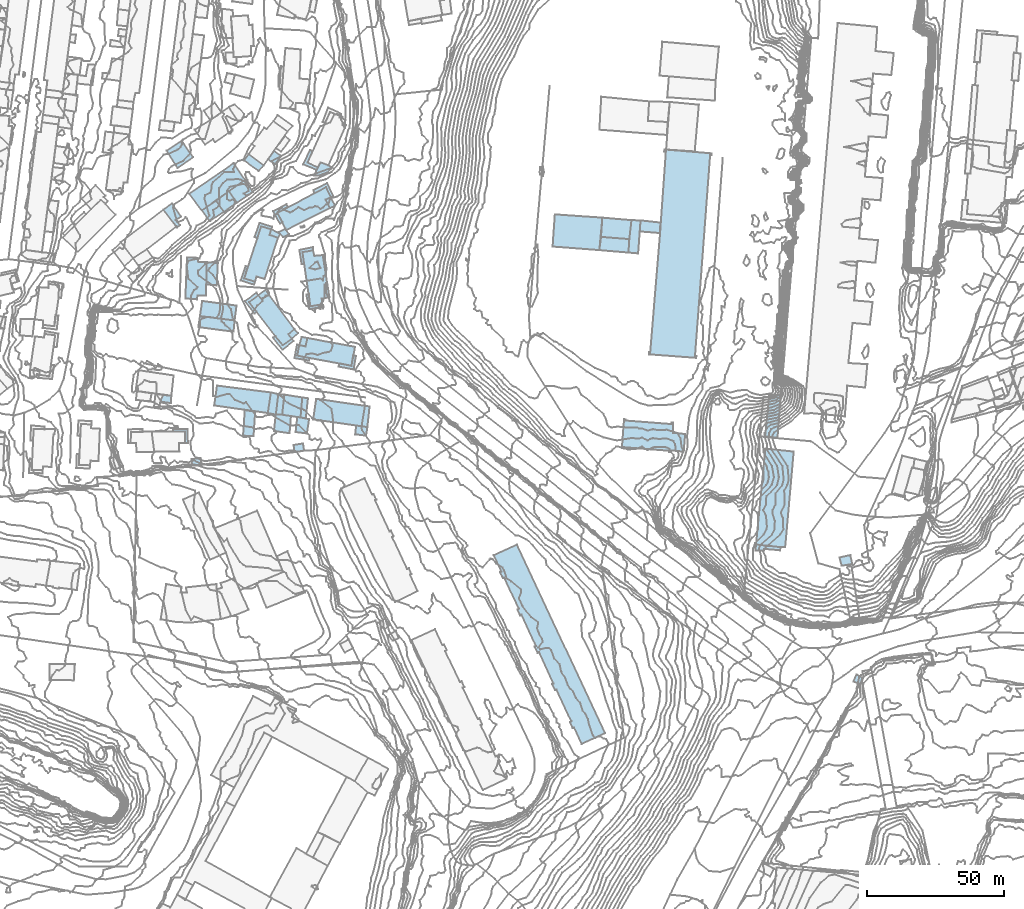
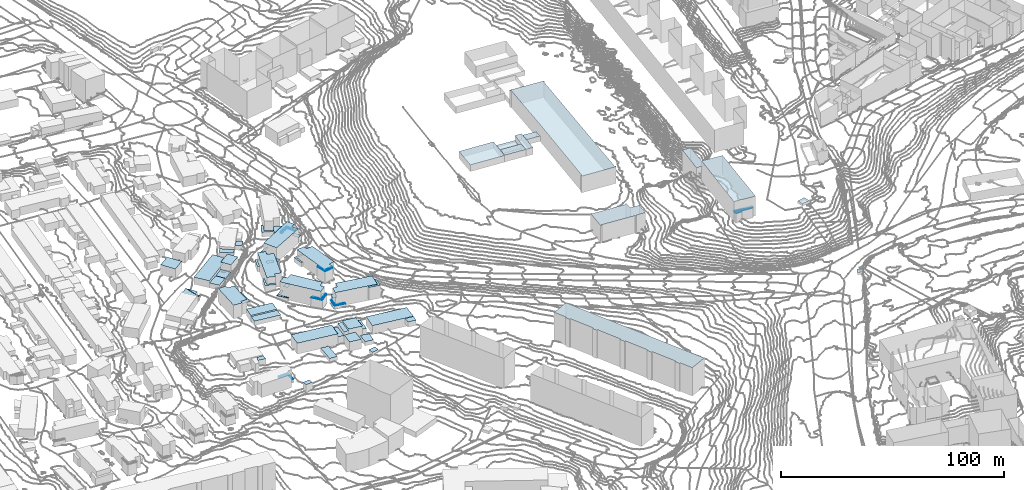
# Not in any storey, part 82 of 419: 62 roofs.
"""IFC2X3 model written with IfcOpenShell, lengths in metres."""

from ifc_helpers import new_model, si_unit, frame, origin_with_axes, place, context, subcontext, project, faceted_brep, element, save


model = new_model("IFC2X3")

# Units and contexts
model_context = context("Model", 3, precision=1e-05, world=origin_with_axes())
body_context = subcontext(model_context, "Body", "Model", "MODEL_VIEW")
ifc_project = project(units=[si_unit("AREAUNIT", "SQUARE_METRE"), si_unit("LENGTHUNIT", "METRE")], contexts=[model_context])

# Roofs
roof_1_placement = place(None, frame((585.6920204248, 669.3976909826, 49.8970001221), z_axis=(0.0, 0.0, 1.0), x_axis=(1.0, 0.0, 0.0)))
element("IfcRoof", 1, at=roof_1_placement, Name="Toiture 0", ShapeType="NOTDEFINED", context=body_context, shape_type="Brep", body=[
    faceted_brep([(12.8, -1.7000000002, 2.3029998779), (13.2000000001, 2.4000000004, 2.3029998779), (0.6, 4.0, 2.3029998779), (0.0, 0.0, 2.3029998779)], [[[0, 1, 2]], [[2, 3, 0]]]),
])
roof_2_placement = place(None, frame((591.4920204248, 640.8976909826, 49.4289993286), z_axis=(0.0, 0.0, 1.0), x_axis=(1.0, 0.0, 0.0)))
element("IfcRoof", 2, at=roof_2_placement, Name="Toiture 0", ShapeType="NOTDEFINED", context=body_context, shape_type="Brep", body=[
    faceted_brep([(19.5, -2.7999999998, 5.9710006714), (20.6, 4.7000000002, 5.9710006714), (1.0, 7.2000000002, 5.9710006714), (0.0, 0.0, 5.9710006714)], [[[0, 1, 2]], [[2, 3, 0]]]),
])
roof_3_placement = place(None, frame((613.8920204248, 637.4976909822, 50.0967005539), z_axis=(0.0, 0.0, 1.0), x_axis=(1.0, 0.0, 0.0)))
element("IfcRoof", 3, at=roof_3_placement, Name="Toiture 0", ShapeType="NOTDEFINED", context=body_context, shape_type="Brep", body=[
    faceted_brep([(2.2999999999, 0.0, 5.6032994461), (3.1, 7.3000000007, 5.6032994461), (0.8999999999, 7.5, 5.6032994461), (0.0, 0.0, 5.6032994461)], [[[0, 1, 2]], [[2, 3, 0]]]),
])
roof_4_placement = place(None, frame((614.4920204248, 710.9976909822, 51.7713991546), z_axis=(0.0, 0.0, 1.0), x_axis=(1.0, 0.0, 0.0)))
element("IfcRoof", 4, at=roof_4_placement, Name="Toiture 0", ShapeType="NOTDEFINED", context=body_context, shape_type="Brep", body=[
    faceted_brep([(3.2, -6.2999999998, 8.0286008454), (19.1, 1.8000000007, 8.0286008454), (17.5, 4.8000000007, 8.0286008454), (19.4, 5.7000000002, 8.0286008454), (17.7, 9.3000000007, 8.0286008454), (0.0, 0.0, 8.0286008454)], [[[0, 1, 2]], [[2, 3, 4]], [[4, 5, 0]], [[0, 2, 4]]]),
])
roof_5_placement = place(None, frame((739.7920204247, 625.3976909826, 67.8319976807), z_axis=(0.0, 0.0, 1.0), x_axis=(1.0, 0.0, 0.0)))
element("IfcRoof", 5, at=roof_5_placement, Name="Toiture 0", ShapeType="NOTDEFINED", context=body_context, shape_type="Brep", body=[
    faceted_brep([(18.6000000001, 8.4000000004, 9.5680023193), (18.6000000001, 9.2000000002, 9.5680023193), (18.1000000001, 9.2000000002, 9.5680023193), (1.4, 10.0, 9.5680023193), (1.4, 10.4000000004, 9.5680023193), (0.8, 10.5, 9.5680023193), (0.0, 0.0, 9.5680023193), (0.7000000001, -0.0999999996, 9.5680023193), (0.7000000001, 0.2999999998, 9.5680023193), (17.2000000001, -1.0, 9.5680023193), (17.2000000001, -1.5, 9.5680023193), (17.8, -1.5, 9.5680023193), (18.0, -0.9000000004, 9.5680023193), (22.5, -1.2999999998, 9.5680023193), (23.0, 5.0999999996, 9.5680023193), (18.6000000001, 5.5, 9.5680023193), (18.1000000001, 8.7000000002, 9.5680023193)], [[[0, 1, 2]], [[3, 4, 5]], [[6, 7, 8]], [[9, 10, 11]], [[12, 13, 14]], [[15, 0, 2]], [[3, 5, 6]], [[9, 11, 12]], [[12, 14, 15]], [[15, 2, 16]], [[16, 3, 6]], [[8, 9, 12]], [[12, 15, 16]], [[16, 6, 8]], [[8, 12, 16]]]),
])
roof_6_placement = place(None, frame((602.3920204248, 687.0976909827, 52.1847999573), z_axis=(0.0, 0.0, 1.0), x_axis=(1.0, 0.0, 0.0)))
element("IfcRoof", 6, at=roof_6_placement, Name="Toiture 0", ShapeType="NOTDEFINED", context=body_context, shape_type="Brep", body=[
    faceted_brep([(7.3999999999, -0.2000000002, 7.4152000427), (12.2999999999, 14.7999999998, 7.4152000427), (9.2, 15.7999999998, 7.4152000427), (9.7999999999, 17.8999999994, 7.4152000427), (6.1, 18.8999999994, 7.4152000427), (0.0, 0.0, 7.4152000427), (3.8999999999, -1.2000000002, 7.4152000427), (4.3999999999, 0.7000000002, 7.4152000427)], [[[0, 1, 2]], [[2, 3, 4]], [[4, 5, 6]], [[7, 0, 2]], [[4, 6, 7]], [[7, 2, 4]]]),
])
roof_7_placement = place(None, frame((574.1920204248, 733.5976909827, 42.8875996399), z_axis=(0.0, 0.0, 1.0), x_axis=(1.0, 0.0, 0.0)))
element("IfcRoof", 7, at=roof_7_placement, Name="Toiture 0", ShapeType="NOTDEFINED", context=body_context, shape_type="Brep", body=[
    faceted_brep([(5.5, 3.7000000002, 5.4124003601), (0.0, 0.0, 5.4124003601), (4.0, -6.2999999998, 5.4124003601), (9.6, -2.4000000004, 5.4124003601)], [[[0, 1, 2]], [[2, 3, 0]]]),
])
roof_8_placement = place(None, frame((571.8920204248, 642.2976909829, 48.9172991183), z_axis=(0.0, 0.0, 1.0), x_axis=(1.0, 0.0, 0.0)))
element("IfcRoof", 8, at=roof_8_placement, Name="Toiture 0", ShapeType="NOTDEFINED", context=body_context, shape_type="Brep", body=[
    faceted_brep([(3.7999999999, -0.6000000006, 3.0827008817), (4.0, 2.0999999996, 3.0827008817), (0.8999999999, 2.3999999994, 3.0827008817), (0.0, 0.0, 3.0827008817)], [[[0, 1, 2]], [[2, 3, 0]]]),
])
roof_9_placement = place(None, frame((742.1920204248, 696.4976909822, 71.3740007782), z_axis=(0.0, 0.0, 1.0), x_axis=(1.0, 0.0, 0.0)))
element("IfcRoof", 9, at=roof_9_placement, Name="Toiture 0", ShapeType="NOTDEFINED", context=body_context, shape_type="Brep", body=[
    faceted_brep([(1.1, 11.8000000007, 3.8259992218), (0.3, 4.9000000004, 3.8259992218), (0.0, 0.0, 3.8259992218), (3.5, -0.2999999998, 3.8259992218), (4.4, 11.7000000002, 3.8259992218)], [[[0, 1, 2]], [[2, 3, 4]], [[4, 0, 2]]]),
])
roof_10_placement = place(None, frame((583.1920204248, 621.3976909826, 44.3322001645), z_axis=(0.0, 0.0, 1.0), x_axis=(1.0, 0.0, 0.0)))
element("IfcRoof", 10, at=roof_10_placement, Name="Toiture 0", ShapeType="NOTDEFINED", context=body_context, shape_type="Brep", body=[
    faceted_brep([(0.3, -2.4000000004, 4.3677998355), (3.7000000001, -2.0999999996, 4.3677998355), (3.4, 0.4000000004, 4.3677998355), (0.0, 0.0, 4.3677998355)], [[[0, 1, 2]], [[2, 3, 0]]]),
])
roof_11_placement = place(None, frame((620.3920204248, 626.4976909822, 48.8734996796), z_axis=(0.0, 0.0, 1.0), x_axis=(1.0, 0.0, 0.0)))
element("IfcRoof", 11, at=roof_11_placement, Name="Toiture 0", ShapeType="NOTDEFINED", context=body_context, shape_type="Brep", body=[
    faceted_brep([(0.2999999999, -2.5999999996, 1.6265003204), (3.7999999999, -2.0, 1.6265003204), (3.3999999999, 0.6000000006, 1.6265003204), (0.0, 0.0, 1.6265003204)], [[[0, 1, 2]], [[2, 3, 0]]]),
])
roof_12_placement = place(None, frame((623.7920204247, 728.5976909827, 49.1729995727), z_axis=(0.0, 0.0, 1.0), x_axis=(1.0, 0.0, 0.0)))
element("IfcRoof", 12, at=roof_12_placement, Name="Toiture 0", ShapeType="NOTDEFINED", context=body_context, shape_type="Brep", body=[
    faceted_brep([(0.0, 0.0, 2.5270004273), (4.8, -2.0, 2.5270004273), (5.3, -1.1000000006, 2.5270004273), (1.6000000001, 0.5999999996, 2.5270004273), (3.4, 4.7999999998, 2.5270004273), (2.5, 5.2000000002, 2.5270004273)], [[[0, 1, 2]], [[3, 4, 5]], [[0, 2, 3]], [[3, 5, 0]]]),
])
roof_13_placement = place(None, frame((627.7920204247, 724.5976909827, 49.5610002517), z_axis=(0.0, 0.0, 1.0), x_axis=(1.0, 0.0, 0.0)))
element("IfcRoof", 13, at=roof_13_placement, Name="Toiture 0", ShapeType="NOTDEFINED", context=body_context, shape_type="Brep", body=[
    faceted_brep([(6.7000000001, 2.7999999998, 2.7389997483), (5.2000000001, 3.5999999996, 2.7389997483), (2.3, 4.7000000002, 2.7389997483), (0.0, 0.0, 2.7389997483), (1.9, 0.0, 2.7389997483), (4.7000000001, 1.0999999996, 2.7389997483)], [[[0, 1, 2]], [[2, 3, 4]], [[4, 5, 0]], [[0, 2, 4]]]),
])
roof_14_placement = place(None, frame((614.8920204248, 703.8976909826, 52.1322005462), z_axis=(0.0, 0.0, 1.0), x_axis=(1.0, 0.0, 0.0)))
element("IfcRoof", 14, at=roof_14_placement, Name="Toiture 0", ShapeType="NOTDEFINED", context=body_context, shape_type="Brep", body=[
    faceted_brep([(2.7999999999, 0.7999999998, 1.8677994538), (2.6, 1.4000000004, 1.8677994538), (0.0, 0.0, 1.8677994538), (1.7, -1.7000000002, 1.8677994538), (3.8999999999, -0.7000000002, 1.8677994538)], [[[0, 1, 2]], [[2, 3, 4]], [[4, 0, 2]]]),
])
roof_15_placement = place(None, frame((622.4920204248, 697.4976909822, 54.8317015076), z_axis=(0.0, 0.0, 1.0), x_axis=(1.0, 0.0, 0.0)))
element("IfcRoof", 15, at=roof_15_placement, Name="Toiture 0", ShapeType="NOTDEFINED", context=body_context, shape_type="Brep", body=[
    faceted_brep([(1.1, -0.7999999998, 2.3682984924), (5.0, -0.1999999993, 2.3682984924), (4.9, 1.0, 2.3682984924), (0.0, 0.0, 2.3682984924), (0.7999999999, -5.1999999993, 2.3682984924), (1.7, -5.0999999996, 2.3682984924)], [[[0, 1, 2]], [[3, 4, 5]], [[0, 2, 3]], [[3, 5, 0]]]),
])
roof_16_placement = place(None, frame((576.4920204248, 631.3976909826, 46.0819999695), z_axis=(0.0, 0.0, 1.0), x_axis=(1.0, 0.0, 0.0)))
element("IfcRoof", 16, at=roof_16_placement, Name="Toiture 0", ShapeType="NOTDEFINED", context=body_context, shape_type="Brep", body=[
    faceted_brep([(4.4, 0.0, 1.4180000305), (4.4, -4.2000000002, 1.4180000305), (5.4, -4.2000000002, 1.4180000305), (5.2999999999, 1.0, 1.4180000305), (0.0, 0.9000000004, 1.4180000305), (0.0, 0.0, 1.4180000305)], [[[0, 1, 2]], [[3, 4, 5]], [[0, 2, 3]], [[3, 5, 0]]]),
])
roof_17_placement = place(None, frame((618.4920204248, 666.8976909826, 53.4909012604), z_axis=(0.0, 0.0, 1.0), x_axis=(1.0, 0.0, 0.0)))
element("IfcRoof", 17, at=roof_17_placement, Name="Toiture 0", ShapeType="NOTDEFINED", context=body_context, shape_type="Brep", body=[
    faceted_brep([(3.5, 0.2999999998, 2.5090987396), (2.2, 1.7999999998, 2.5090987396), (0.0, 0.0, 2.5090987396), (1.2, -1.7000000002, 2.5090987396)], [[[0, 1, 2]], [[2, 3, 0]]]),
])
roof_18_placement = place(None, frame((620.6920204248, 658.0976909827, 53.6420013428), z_axis=(0.0, 0.0, 1.0), x_axis=(1.0, 0.0, 0.0)))
element("IfcRoof", 18, at=roof_18_placement, Name="Toiture 0", ShapeType="NOTDEFINED", context=body_context, shape_type="Brep", body=[
    faceted_brep([(1.0, 0.8999999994, 1.5579986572), (1.7000000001, 4.7000000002, 1.5579986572), (0.9, 4.8999999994, 1.5579986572), (0.0, 0.0, 1.5579986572), (5.3, -0.9000000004, 1.5579986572), (5.5, 0.0, 1.5579986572)], [[[0, 1, 2]], [[3, 4, 5]], [[0, 2, 3]], [[3, 5, 0]]]),
])
roof_19_placement = place(None, frame((602.6920204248, 678.8976909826, 52.7784986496), z_axis=(0.0, 0.0, 1.0), x_axis=(1.0, 0.0, 0.0)))
element("IfcRoof", 19, at=roof_19_placement, Name="Toiture 0", ShapeType="NOTDEFINED", context=body_context, shape_type="Brep", body=[
    faceted_brep([(1.5, -0.4000000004, 1.7215013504), (4.8, 2.0999999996, 1.7215013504), (4.2000000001, 3.0999999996, 1.7215013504), (0.0, 0.0, 1.7215013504), (3.5, -4.5, 1.7215013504), (4.1, -3.9000000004, 1.7215013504)], [[[0, 1, 2]], [[3, 4, 5]], [[0, 2, 3]], [[3, 5, 0]]]),
])
roof_20_placement = place(None, frame((622.8920204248, 636.4976909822, 50.4553011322), z_axis=(0.0, 0.0, 1.0), x_axis=(1.0, 0.0, 0.0)))
element("IfcRoof", 20, at=roof_20_placement, Name="Toiture 0", ShapeType="NOTDEFINED", context=body_context, shape_type="Brep", body=[
    faceted_brep([(2.7, 7.0, 4.3446988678), (0.6, 7.3000000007, 4.3446988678), (0.0, 0.0, 4.3446988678), (1.8999999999, -0.2999999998, 4.3446988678)], [[[0, 1, 2]], [[2, 3, 0]]]),
])
roof_21_placement = place(None, frame((610.9920204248, 638.0976909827, 50.037399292), z_axis=(0.0, 0.0, 1.0), x_axis=(1.0, 0.0, 0.0)))
element("IfcRoof", 21, at=roof_21_placement, Name="Toiture 0", ShapeType="NOTDEFINED", context=body_context, shape_type="Brep", body=[
    faceted_brep([(2.9, -0.6000000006, 3.762600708), (3.7999999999, 6.8999999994, 3.762600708), (1.1, 7.5, 3.762600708), (0.0, 0.0, 3.762600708)], [[[0, 1, 2]], [[2, 3, 0]]]),
])
roof_22_placement = place(None, frame((788.5920204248, 590.2976909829, 83.8571990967), z_axis=(0.0, 0.0, 1.0), x_axis=(1.0, 0.0, 0.0)))
element("IfcRoof", 22, at=roof_22_placement, Name="Toiture 0", ShapeType="NOTDEFINED", context=body_context, shape_type="Brep", body=[
    faceted_brep([(0.0, 0.0, 10.8428009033), (9.0, -1.0, 10.8428009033), (10.6, -1.0, 10.8428009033), (13.7, 33.7999999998, 10.8428009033), (3.4, 34.8999999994, 10.8428009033)], [[[0, 1, 2]], [[2, 3, 4]], [[4, 0, 2]]]),
])
roof_23_placement = place(None, frame((588.5920204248, 684.8976909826, 49.6700000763), z_axis=(0.0, 0.0, 1.0), x_axis=(1.0, 0.0, 0.0)))
element("IfcRoof", 23, at=roof_23_placement, Name="Toiture 0", ShapeType="NOTDEFINED", context=body_context, shape_type="Brep", body=[
    faceted_brep([(4.2, 7.7999999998, 1.8299999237), (0.2, 8.0999999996, 1.8299999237), (0.0, 0.0, 1.8299999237), (3.8, -0.2999999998, 1.8299999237)], [[[0, 1, 2]], [[2, 3, 0]]]),
])
roof_24_placement = place(None, frame((586.9920204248, 711.8976909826, 44.2959999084), z_axis=(0.0, 0.0, 1.0), x_axis=(1.0, 0.0, 0.0)))
element("IfcRoof", 24, at=roof_24_placement, Name="Toiture 0", ShapeType="NOTDEFINED", context=body_context, shape_type="Brep", body=[
    faceted_brep([(5.2, 3.5, 2.7040000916), (0.0, 0.0, 2.7040000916), (2.9, -3.9000000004, 2.7040000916), (8.0, -0.5, 2.7040000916)], [[[0, 1, 2]], [[2, 3, 0]]]),
])
roof_25_placement = place(None, frame((604.1920204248, 678.4976909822, 52.8710006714), z_axis=(0.0, 0.0, 1.0), x_axis=(1.0, 0.0, 0.0)))
element("IfcRoof", 25, at=roof_25_placement, Name="Toiture 0", ShapeType="NOTDEFINED", context=body_context, shape_type="Brep", body=[
    faceted_brep([(16.5, -9.7999999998, 8.9289993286), (7.2000000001, 2.7000000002, 8.9289993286), (4.6, 1.0, 8.9289993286), (3.3, 2.5, 8.9289993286), (0.0, 0.0, 8.9289993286), (12.2000000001, -15.6999999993, 8.9289993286), (15.5, -13.2999999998, 8.9289993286), (14.3, -11.5999999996, 8.9289993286)], [[[0, 1, 2]], [[2, 3, 4]], [[4, 5, 6]], [[7, 0, 2]], [[2, 4, 6]], [[6, 7, 2]]]),
])
roof_26_placement = place(None, frame((746.2920204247, 704.1976909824, 71.3820022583), z_axis=(0.0, 0.0, 1.0), x_axis=(1.0, 0.0, 0.0)))
element("IfcRoof", 26, at=roof_26_placement, Name="Toiture 0", ShapeType="NOTDEFINED", context=body_context, shape_type="Brep", body=[
    faceted_brep([(0.0, 0.0, 2.8179977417), (7.4, -0.5999999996, 2.8179977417), (7.5, 3.2000000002, 2.8179977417), (0.3, 4.0, 2.8179977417)], [[[0, 1, 2]], [[2, 3, 0]]]),
])
roof_27_placement = place(None, frame((621.0920204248, 631.1976909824, 49.5080005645), z_axis=(0.0, 0.0, 1.0), x_axis=(1.0, 0.0, 0.0)))
element("IfcRoof", 27, at=roof_27_placement, Name="Toiture 0", ShapeType="NOTDEFINED", context=body_context, shape_type="Brep", body=[
    faceted_brep([(4.9, 4.7000000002, 2.1919994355), (1.8, 5.2999999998, 2.1919994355), (0.6, 5.5, 2.1919994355), (0.0, 0.0, 2.1919994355), (4.1, -0.5, 2.1919994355)], [[[0, 1, 2]], [[2, 3, 4]], [[4, 0, 2]]]),
])
roof_28_placement = place(None, frame((631.9920204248, 715.7976909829, 51.9300001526), z_axis=(0.0, 0.0, 1.0), x_axis=(1.0, 0.0, 0.0)))
element("IfcRoof", 28, at=roof_28_placement, Name="Toiture 0", ShapeType="NOTDEFINED", context=body_context, shape_type="Brep", body=[
    faceted_brep([(0.0, 0.0, 3.0699998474), (1.6, -3.0, 3.0699998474), (3.5, -2.2000000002, 3.0699998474), (1.9, 0.8999999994, 3.0699998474)], [[[0, 1, 2]], [[2, 3, 0]]]),
])
roof_29_placement = place(None, frame((612.8920204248, 711.5976909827, 51.8900004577), z_axis=(0.0, 0.0, 1.0), x_axis=(1.0, 0.0, 0.0)))
element("IfcRoof", 29, at=roof_29_placement, Name="Toiture 0", ShapeType="NOTDEFINED", context=body_context, shape_type="Brep", body=[
    faceted_brep([(2.6, -4.6000000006, 2.8099995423), (3.3999999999, -4.0, 2.8099995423), (1.6, -0.6000000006, 2.8099995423), (5.2999999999, 1.5999999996, 2.8099995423), (4.8999999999, 2.5, 2.8099995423), (0.0, 0.0, 2.8099995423)], [[[0, 1, 2]], [[2, 3, 4]], [[5, 0, 2]], [[2, 4, 5]]]),
])
roof_30_placement = place(None, frame((602.2920204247, 729.9976909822, 45.0800004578), z_axis=(0.0, 0.0, 1.0), x_axis=(1.0, 0.0, 0.0)))
element("IfcRoof", 30, at=roof_30_placement, Name="Toiture 0", ShapeType="NOTDEFINED", context=body_context, shape_type="Brep", body=[
    faceted_brep([(5.3, -3.7999999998, 2.4199995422), (7.1000000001, -1.7999999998, 2.4199995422), (1.7000000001, 2.3000000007, 2.4199995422), (0.0, 0.0, 2.4199995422)], [[[0, 1, 2]], [[2, 3, 0]]]),
])
roof_31_placement = place(None, frame((610.9920204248, 730.3976909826, 45.3399993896), z_axis=(0.0, 0.0, 1.0), x_axis=(1.0, 0.0, 0.0)))
element("IfcRoof", 31, at=roof_31_placement, Name="Toiture 0", ShapeType="NOTDEFINED", context=body_context, shape_type="Brep", body=[
    faceted_brep([(2.2, 3.0, 2.5600006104), (0.0, 0.0, 2.5600006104), (2.6, -1.7000000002, 2.5600006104), (4.7999999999, 1.2999999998, 2.5600006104)], [[[0, 1, 2]], [[2, 3, 0]]]),
])
roof_32_placement = place(None, frame((607.4920204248, 680.9976909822, 52.9106004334), z_axis=(0.0, 0.0, 1.0), x_axis=(1.0, 0.0, 0.0)))
element("IfcRoof", 32, at=roof_32_placement, Name="Toiture 0", ShapeType="NOTDEFINED", context=body_context, shape_type="Brep", body=[
    faceted_brep([(1.2999999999, -1.5, 3.5893995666), (3.9, 0.2000000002, 3.5893995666), (2.6, 2.0, 3.5893995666), (0.0, 0.0, 3.5893995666)], [[[0, 1, 2]], [[2, 3, 0]]]),
])
roof_33_placement = place(None, frame((642.7920204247, 630.3976909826, 52.6359992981), z_axis=(0.0, 0.0, 1.0), x_axis=(1.0, 0.0, 0.0)))
element("IfcRoof", 33, at=roof_33_placement, Name="Toiture 0", ShapeType="NOTDEFINED", context=body_context, shape_type="Brep", body=[
    faceted_brep([(4.4, 2.5999999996, 2.7640007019), (0.3, 3.2000000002, 2.7640007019), (0.0, 0.0, 2.7640007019), (3.9, -0.5, 2.7640007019)], [[[0, 1, 2]], [[2, 3, 0]]]),
])
roof_34_placement = place(None, frame((611.5920204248, 702.8976909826, 52.1847999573), z_axis=(0.0, 0.0, 1.0), x_axis=(1.0, 0.0, 0.0)))
element("IfcRoof", 34, at=roof_34_placement, Name="Toiture 0", ShapeType="NOTDEFINED", context=body_context, shape_type="Brep", body=[
    faceted_brep([(3.8, 0.4000000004, 2.3152000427), (0.6, 2.0999999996, 2.3152000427), (0.0, 0.0, 2.3152000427), (3.1, -1.0, 2.3152000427)], [[[0, 1, 2]], [[2, 3, 0]]]),
])
roof_35_placement = place(None, frame((612.8920204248, 665.5976909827, 53.2759997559), z_axis=(0.0, 0.0, 1.0), x_axis=(1.0, 0.0, 0.0)))
element("IfcRoof", 35, at=roof_35_placement, Name="Toiture 0", ShapeType="NOTDEFINED", context=body_context, shape_type="Brep", body=[
    faceted_brep([(7.5, -1.2000000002, 4.7240002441), (6.7999999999, -0.4000000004, 4.7240002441), (3.5, -2.7999999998, 4.7240002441), (0.8999999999, 0.5999999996, 4.7240002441), (0.0, 0.0, 4.7240002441), (3.3999999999, -4.4000000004, 4.7240002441)], [[[0, 1, 2]], [[2, 3, 4]], [[5, 0, 2]], [[2, 4, 5]]]),
])
roof_36_placement = place(None, frame((627.5920204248, 719.2976909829, 51.6060012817), z_axis=(0.0, 0.0, 1.0), x_axis=(1.0, 0.0, 0.0)))
element("IfcRoof", 36, at=roof_36_placement, Name="Toiture 0", ShapeType="NOTDEFINED", context=body_context, shape_type="Brep", body=[
    faceted_brep([(4.6, 1.0, 4.3939987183), (6.3, -2.6000000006, 4.3939987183), (7.2, -2.2000000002, 4.3939987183), (5.0, 2.5, 4.3939987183), (0.0, 0.0, 4.3939987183), (0.4, -1.2000000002, 4.3939987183)], [[[0, 1, 2]], [[3, 4, 5]], [[0, 2, 3]], [[3, 5, 0]]]),
])
roof_37_placement = place(None, frame((636.7920204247, 654.9976909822, 54.5095999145), z_axis=(0.0, 0.0, 1.0), x_axis=(1.0, 0.0, 0.0)))
element("IfcRoof", 37, at=roof_37_placement, Name="Toiture 0", ShapeType="NOTDEFINED", context=body_context, shape_type="Brep", body=[
    faceted_brep([(6.2000000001, 3.9000000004, 6.9904000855), (5.2000000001, 4.1000000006, 6.9904000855), (4.6000000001, 0.3000000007, 6.9904000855), (0.2000000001, 1.2000000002, 6.9904000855), (0.0, 0.0, 6.9904000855), (5.4, -1.0, 6.9904000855)], [[[0, 1, 2]], [[2, 3, 4]], [[5, 0, 2]], [[2, 4, 5]]]),
])
roof_38_placement = place(None, frame((624.9920204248, 681.1976909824, 54.9600000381), z_axis=(0.0, 0.0, 1.0), x_axis=(1.0, 0.0, 0.0)))
element("IfcRoof", 38, at=roof_38_placement, Name="Toiture 0", ShapeType="NOTDEFINED", context=body_context, shape_type="Brep", body=[
    faceted_brep([(5.9, -4.3999999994, 6.3399999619), (5.7999999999, -3.5, 6.3399999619), (1.5, -4.2000000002, 6.3399999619), (0.9, 0.2000000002, 6.3399999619), (0.0, 0.0, 6.3399999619), (1.1, -5.2999999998, 6.3399999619)], [[[0, 1, 2]], [[2, 3, 4]], [[5, 0, 2]], [[2, 4, 5]]]),
])
roof_39_placement = place(None, frame((596.8920204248, 718.8976909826, 45.3800012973), z_axis=(0.0, 0.0, 1.0), x_axis=(1.0, 0.0, 0.0)))
element("IfcRoof", 39, at=roof_39_placement, Name="Toiture 0", ShapeType="NOTDEFINED", context=body_context, shape_type="Brep", body=[
    faceted_brep([(8.7, -0.2999999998, 5.3199987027), (5.7999999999, 4.0999999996, 5.3199987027), (0.0, 0.0, 5.3199987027), (2.8999999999, -4.2000000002, 5.3199987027)], [[[0, 1, 2]], [[2, 3, 0]]]),
])
roof_40_placement = place(None, frame((592.1920204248, 715.3976909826, 45.7799995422), z_axis=(0.0, 0.0, 1.0), x_axis=(1.0, 0.0, 0.0)))
element("IfcRoof", 40, at=roof_40_placement, Name="Toiture 0", ShapeType="NOTDEFINED", context=body_context, shape_type="Brep", body=[
    faceted_brep([(0.0, 0.0, 1.0200004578), (2.8, -4.0, 1.0200004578), (7.6, -0.7000000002, 1.0200004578), (4.7000000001, 3.5, 1.0200004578)], [[[0, 1, 2]], [[2, 3, 0]]]),
])
roof_41_placement = place(None, frame((601.9920204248, 629.8976909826, 48.0050003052), z_axis=(0.0, 0.0, 1.0), x_axis=(1.0, 0.0, 0.0)))
element("IfcRoof", 41, at=roof_41_placement, Name="Toiture 0", ShapeType="NOTDEFINED", context=body_context, shape_type="Brep", body=[
    faceted_brep([(4.4, 8.7000000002, 1.9949996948), (0.6, 9.2999999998, 1.9949996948), (0.0, 0.0, 1.9949996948), (3.7999999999, -0.2000000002, 1.9949996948)], [[[0, 1, 2]], [[2, 3, 0]]]),
])
roof_42_placement = place(None, frame((788.3920204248, 588.1976909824, 84.2975994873), z_axis=(0.0, 0.0, 1.0), x_axis=(1.0, 0.0, 0.0)))
element("IfcRoof", 42, at=roof_42_placement, Name="Toiture 0", ShapeType="NOTDEFINED", context=body_context, shape_type="Brep", body=[
    faceted_brep([(8.8999999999, 0.0, 5.3024005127), (9.2, 1.1000000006, 5.3024005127), (0.2, 2.1000000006, 5.3024005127), (0.0, 0.0, 5.3024005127), (3.0, -0.2000000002, 5.3024005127), (3.2, 0.5, 5.3024005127)], [[[0, 1, 2]], [[2, 3, 4]], [[5, 0, 2]], [[2, 4, 5]]]),
])
roof_43_placement = place(None, frame((823.9920204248, 540.4976909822, 72.4084002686), z_axis=(0.0, 0.0, 1.0), x_axis=(1.0, 0.0, 0.0)))
element("IfcRoof", 43, at=roof_43_placement, Name="Toiture 0", ShapeType="NOTDEFINED", context=body_context, shape_type="Brep", body=[
    faceted_brep([(2.4, -1.0, 1.2915997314), (3.2, 0.3000000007, 1.2915997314), (3.6, 1.2000000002, 1.2915997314), (1.1, 2.5, 1.2915997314), (0.0, 0.0, 1.2915997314)], [[[0, 1, 2]], [[2, 3, 4]], [[4, 0, 2]]]),
])
roof_44_placement = place(None, frame((791.8920204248, 629.5976909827, 73.85), z_axis=(0.0, 0.0, 1.0), x_axis=(1.0, 0.0, 0.0)))
element("IfcRoof", 44, at=roof_44_placement, Name="Toiture 0", ShapeType="NOTDEFINED", context=body_context, shape_type="Brep", body=[
    faceted_brep([(1.2999999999, 12.8999999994, 14.35), (0.0, 0.0, 14.35), (4.5, -0.5, 14.35), (5.7, 15.0, 14.35), (1.5, 15.2999999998, 14.35)], [[[0, 1, 2]], [[2, 3, 4]], [[4, 0, 2]]]),
])
roof_45_placement = place(None, frame((749.5920204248, 659.4976909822, 71.1811993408), z_axis=(0.0, 0.0, 1.0), x_axis=(1.0, 0.0, 0.0)))
element("IfcRoof", 45, at=roof_45_placement, Name="Toiture 0", ShapeType="NOTDEFINED", context=body_context, shape_type="Brep", body=[
    faceted_brep([(0.5, 0.7000000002, 9.1188006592), (0.0, 0.8000000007, 9.1188006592), (0.0, 0.0, 9.1188006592), (17.2, -1.2999999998, 9.1188006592), (17.3, -0.6999999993, 9.1188006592), (16.8, -0.6999999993, 9.1188006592), (22.3, 72.5, 9.1188006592), (22.8, 72.5, 9.1188006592), (22.8, 73.1000000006, 9.1188006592), (5.7, 74.5, 9.1188006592), (5.6, 73.8000000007, 9.1188006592), (6.2, 73.8000000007, 9.1188006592), (4.1, 44.1000000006, 9.1188006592)], [[[0, 1, 2]], [[3, 4, 5]], [[6, 7, 8]], [[9, 10, 11]], [[0, 2, 3]], [[6, 8, 9]], [[0, 3, 5]], [[6, 9, 11]], [[12, 0, 5]], [[5, 6, 11]], [[11, 12, 5]]]),
])
roof_46_placement = place(None, frame((601.0920204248, 686.3976909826, 52.5969993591), z_axis=(0.0, 0.0, 1.0), x_axis=(1.0, 0.0, 0.0)))
element("IfcRoof", 46, at=roof_46_placement, Name="Toiture 0", ShapeType="NOTDEFINED", context=body_context, shape_type="Brep", body=[
    faceted_brep([(4.8, -1.5999999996, 3.4030006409), (5.2, -0.5, 3.4030006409), (1.3, 0.7000000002, 3.4030006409), (2.5, 4.9000000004, 3.4030006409), (1.8, 5.2000000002, 3.4030006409), (0.0, 0.0, 3.4030006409)], [[[0, 1, 2]], [[2, 3, 4]], [[5, 0, 2]], [[2, 4, 5]]]),
])
roof_47_placement = place(None, frame((606.1920204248, 702.0976909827, 52.1450004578), z_axis=(0.0, 0.0, 1.0), x_axis=(1.0, 0.0, 0.0)))
element("IfcRoof", 47, at=roof_47_placement, Name="Toiture 0", ShapeType="NOTDEFINED", context=body_context, shape_type="Brep", body=[
    faceted_brep([(2.3, 3.8999999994, 3.0549995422), (6.0, 2.8999999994, 3.0549995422), (6.4, 3.7999999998, 3.0549995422), (1.7000000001, 5.2000000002, 3.0549995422), (0.0, 0.0, 3.0549995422), (1.0, -0.2999999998, 3.0549995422)], [[[0, 1, 2]], [[3, 4, 5]], [[0, 2, 3]], [[3, 5, 0]]]),
])
roof_48_placement = place(None, frame((613.1920204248, 631.5976909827, 48.9920001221), z_axis=(0.0, 0.0, 1.0), x_axis=(1.0, 0.0, 0.0)))
element("IfcRoof", 48, at=roof_48_placement, Name="Toiture 0", ShapeType="NOTDEFINED", context=body_context, shape_type="Brep", body=[
    faceted_brep([(6.2000000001, 5.3999999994, 5.1079998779), (3.0, 5.8999999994, 5.1079998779), (0.7000000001, 5.8999999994, 5.1079998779), (0.0, 0.0, 5.1079998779), (5.7000000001, -0.7999999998, 5.1079998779)], [[[0, 1, 2]], [[2, 3, 4]], [[4, 0, 2]]]),
])
roof_49_placement = place(None, frame((732.1920204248, 702.1976909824, 71.3740007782), z_axis=(0.0, 0.0, 1.0), x_axis=(1.0, 0.0, 0.0)))
element("IfcRoof", 49, at=roof_49_placement, Name="Toiture 0", ShapeType="NOTDEFINED", context=body_context, shape_type="Brep", body=[
    faceted_brep([(10.3, -0.7999999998, 1.2259992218), (11.1, 6.1000000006, 1.2259992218), (0.5, 7.0, 1.2259992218), (0.0, 0.0, 1.2259992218)], [[[0, 1, 2]], [[2, 3, 0]]]),
])
roof_50_placement = place(None, frame((621.6920204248, 658.9976909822, 53.6719985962), z_axis=(0.0, 0.0, 1.0), x_axis=(1.0, 0.0, 0.0)))
element("IfcRoof", 50, at=roof_50_placement, Name="Toiture 0", ShapeType="NOTDEFINED", context=body_context, shape_type="Brep", body=[
    faceted_brep([(21.0, 3.2000000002, 7.9280014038), (3.7000000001, 6.4000000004, 7.9280014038), (3.0, 3.4000000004, 7.9280014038), (0.7000000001, 3.8000000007, 7.9280014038), (0.0, 0.0, 7.9280014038), (19.7000000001, -3.6999999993, 7.9280014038)], [[[0, 1, 2]], [[2, 3, 4]], [[4, 5, 0]], [[0, 2, 4]]]),
])
roof_51_placement = place(None, frame((623.5920204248, 696.6976909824, 54.8609992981), z_axis=(0.0, 0.0, 1.0), x_axis=(1.0, 0.0, 0.0)))
element("IfcRoof", 51, at=roof_51_placement, Name="Toiture 0", ShapeType="NOTDEFINED", context=body_context, shape_type="Brep", body=[
    faceted_brep([(2.9, -19.7000000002, 6.7390007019), (7.2, -19.0, 6.7390007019), (7.0, -17.0, 6.7390007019), (9.8, -16.3999999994, 6.7390007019), (7.4, -1.0999999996, 6.7390007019), (4.3, -1.3999999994, 6.7390007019), (3.9, 0.6000000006, 6.7390007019), (0.0, 0.0, 6.7390007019)], [[[0, 1, 2]], [[2, 3, 4]], [[5, 6, 7]], [[7, 0, 2]], [[2, 4, 5]], [[5, 7, 2]]]),
])
roof_52_placement = place(None, frame((714.5920204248, 698.6976909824, 71.333996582), z_axis=(0.0, 0.0, 1.0), x_axis=(1.0, 0.0, 0.0)))
element("IfcRoof", 52, at=roof_52_placement, Name="Toiture 0", ShapeType="NOTDEFINED", context=body_context, shape_type="Brep", body=[
    faceted_brep([(0.0, 0.0, 3.666003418), (17.0, -1.2999999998, 3.666003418), (18.1, 10.5, 3.666003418), (0.8, 11.7000000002, 3.666003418)], [[[0, 1, 2]], [[2, 3, 0]]]),
])
roof_53_placement = place(None, frame((731.5920204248, 697.3976909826, 71.4400024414), z_axis=(0.0, 0.0, 1.0), x_axis=(1.0, 0.0, 0.0)))
element("IfcRoof", 53, at=roof_53_placement, Name="Toiture 0", ShapeType="NOTDEFINED", context=body_context, shape_type="Brep", body=[
    faceted_brep([(0.0, 0.0, 3.6599975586), (10.6, -0.9000000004, 3.6599975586), (10.9, 4.0, 3.6599975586), (0.6, 4.7999999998, 3.6599975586)], [[[0, 1, 2]], [[2, 3, 0]]]),
])
roof_54_placement = place(None, frame((616.1920204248, 637.4976909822, 50.271000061), z_axis=(0.0, 0.0, 1.0), x_axis=(1.0, 0.0, 0.0)))
element("IfcRoof", 54, at=roof_54_placement, Name="Toiture 0", ShapeType="NOTDEFINED", context=body_context, shape_type="Brep", body=[
    faceted_brep([(0.0, 0.0, 6.228999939), (6.7000000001, -1.0, 6.228999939), (7.3, 6.3000000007, 6.228999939), (0.8, 7.3000000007, 6.228999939)], [[[0, 1, 2]], [[2, 3, 0]]]),
])
roof_55_placement = place(None, frame((627.4920204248, 635.7976909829, 50.9129999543), z_axis=(0.0, 0.0, 1.0), x_axis=(1.0, 0.0, 0.0)))
element("IfcRoof", 55, at=roof_55_placement, Name="Toiture 0", ShapeType="NOTDEFINED", context=body_context, shape_type="Brep", body=[
    faceted_brep([(15.6, -2.2000000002, 4.5870000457), (19.7, -2.8000000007, 4.5870000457), (20.5, 4.6999999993, 4.5870000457), (1.1, 7.5, 4.5870000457), (0.0, 0.0, 4.5870000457)], [[[0, 1, 2]], [[2, 3, 4]], [[4, 0, 2]]]),
])
roof_56_placement = place(None, frame((582.3920204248, 717.8976909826, 44.2890007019), z_axis=(0.0, 0.0, 1.0), x_axis=(1.0, 0.0, 0.0)))
element("IfcRoof", 56, at=roof_56_placement, Name="Toiture 0", ShapeType="NOTDEFINED", context=body_context, shape_type="Brep", body=[
    faceted_brep([(0.0, 0.0, 3.8109992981), (4.6, -6.0, 3.8109992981), (20.2999999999, 5.0999999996, 3.8109992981), (16.2, 11.2000000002, 3.8109992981)], [[[0, 1, 2]], [[2, 3, 0]]]),
])
roof_57_placement = place(None, frame((586.2920204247, 673.3976909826, 49.1324996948), z_axis=(0.0, 0.0, 1.0), x_axis=(1.0, 0.0, 0.0)))
element("IfcRoof", 57, at=roof_57_placement, Name="Toiture 0", ShapeType="NOTDEFINED", context=body_context, shape_type="Brep", body=[
    faceted_brep([(0.0, 0.0, 3.5675003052), (12.6000000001, -1.5999999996, 3.5675003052), (13.3, 3.7999999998, 3.5675003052), (0.8, 5.5, 3.5675003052)], [[[0, 1, 2]], [[2, 3, 0]]]),
])
roof_58_placement = place(None, frame((572.9920204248, 712.1976909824, 43.6959999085), z_axis=(0.0, 0.0, 1.0), x_axis=(1.0, 0.0, 0.0)))
element("IfcRoof", 58, at=roof_58_placement, Name="Toiture 0", ShapeType="NOTDEFINED", context=body_context, shape_type="Brep", body=[
    faceted_brep([(3.2, 2.2000000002, 2.6040000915), (0.0, 0.0, 2.6040000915), (5.0, -6.5, 2.6040000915), (6.0, -5.7000000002, 2.6040000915), (4.5, -3.7999999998, 2.6040000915), (6.4, -2.5999999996, 2.6040000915)], [[[0, 1, 2]], [[2, 3, 4]], [[4, 5, 0]], [[0, 2, 4]]]),
])
roof_59_placement = place(None, frame((580.9920204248, 679.7976909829, 48.8708000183), z_axis=(0.0, 0.0, 1.0), x_axis=(1.0, 0.0, 0.0)))
element("IfcRoof", 59, at=roof_59_placement, Name="Toiture 0", ShapeType="NOTDEFINED", context=body_context, shape_type="Brep", body=[
    faceted_brep([(7.5, 1.0, 7.4291999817), (7.7999999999, 13.1999999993, 7.4291999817), (4.7, 13.1999999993, 7.4291999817), (4.5, 14.7999999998, 7.4291999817), (0.6, 14.8999999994, 7.4291999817), (0.0, 0.0, 7.4291999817), (4.2, -0.3000000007, 7.4291999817), (4.4, 1.0, 7.4291999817)], [[[0, 1, 2]], [[2, 3, 4]], [[4, 5, 6]], [[7, 0, 2]], [[2, 4, 6]], [[6, 7, 2]]]),
])
roof_60_placement = place(None, frame((693.1920204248, 586.3976909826, 54.3043986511), z_axis=(0.0, 0.0, 1.0), x_axis=(1.0, 0.0, 0.0)))
element("IfcRoof", 60, at=roof_60_placement, Name="Toiture 0", ShapeType="NOTDEFINED", context=body_context, shape_type="Brep", body=[
    faceted_brep([(29.2000000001, -62.5999999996, 15.4956013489), (32.0, -68.5999999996, 15.4956013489), (40.5, -64.7000000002, 15.4956013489), (8.4, 3.9000000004, 15.4956013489), (0.0, 0.0, 15.4956013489), (2.8, -5.9000000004, 15.4956013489), (2.3, -6.0999999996, 15.4956013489), (3.3, -8.2999999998, 15.4956013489), (9.1, -19.4000000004, 15.4956013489), (8.6, -19.7000000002, 15.4956013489), (9.6, -21.9000000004, 15.4956013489), (15.4, -33.0999999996, 15.4956013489), (14.9, -33.2999999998, 15.4956013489), (16.0, -35.5, 15.4956013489), (21.7000000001, -46.5999999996, 15.4956013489), (21.2000000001, -46.7999999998, 15.4956013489), (22.3, -49.0, 15.4956013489), (28.2000000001, -60.4000000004, 15.4956013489), (27.7000000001, -60.5999999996, 15.4956013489), (28.7000000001, -62.7999999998, 15.4956013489), (3.8, -8.0999999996, 15.4956013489), (10.1, -21.5999999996, 15.4956013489), (16.5, -35.2999999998, 15.4956013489), (22.8, -48.7999999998, 15.4956013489)], [[[0, 1, 2]], [[2, 3, 4]], [[5, 6, 7]], [[8, 9, 10]], [[11, 12, 13]], [[14, 15, 16]], [[17, 18, 19]], [[2, 4, 5]], [[5, 7, 20]], [[8, 10, 21]], [[11, 13, 22]], [[14, 16, 23]], [[17, 19, 0]], [[2, 5, 20]], [[8, 21, 11]], [[22, 14, 23]], [[17, 0, 2]], [[2, 20, 8]], [[8, 11, 22]], [[23, 17, 2]], [[2, 8, 22]], [[22, 23, 2]]]),
])
roof_61_placement = place(None, frame((622.3920204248, 662.7976909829, 53.6707987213), z_axis=(0.0, 0.0, 1.0), x_axis=(1.0, 0.0, 0.0)))
element("IfcRoof", 61, at=roof_61_placement, Name="Toiture 0", ShapeType="NOTDEFINED", context=body_context, shape_type="Brep", body=[
    faceted_brep([(2.2999999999, -0.4000000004, 2.3292012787), (3.0, 2.5999999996, 2.3292012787), (0.8999999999, 3.0, 2.3292012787), (0.0, 0.0, 2.3292012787)], [[[0, 1, 2]], [[2, 3, 0]]]),
])
roof_62_placement = place(None, frame((818.9920204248, 585.5976909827, 85.9899993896), z_axis=(0.0, 0.0, 1.0), x_axis=(1.0, 0.0, 0.0)))
element("IfcRoof", 62, at=roof_62_placement, Name="Toiture 0", ShapeType="NOTDEFINED", context=body_context, shape_type="Brep", body=[
    faceted_brep([(3.2, -2.6000000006, 1.3100006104), (4.6, -2.4000000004, 1.3100006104), (3.9, 0.8999999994, 1.3100006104), (0.0, 0.0, 1.3100006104), (0.7999999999, -3.0, 1.3100006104)], [[[0, 1, 2]], [[2, 3, 4]], [[4, 0, 2]]]),
])

save(model, "model.ifc")
